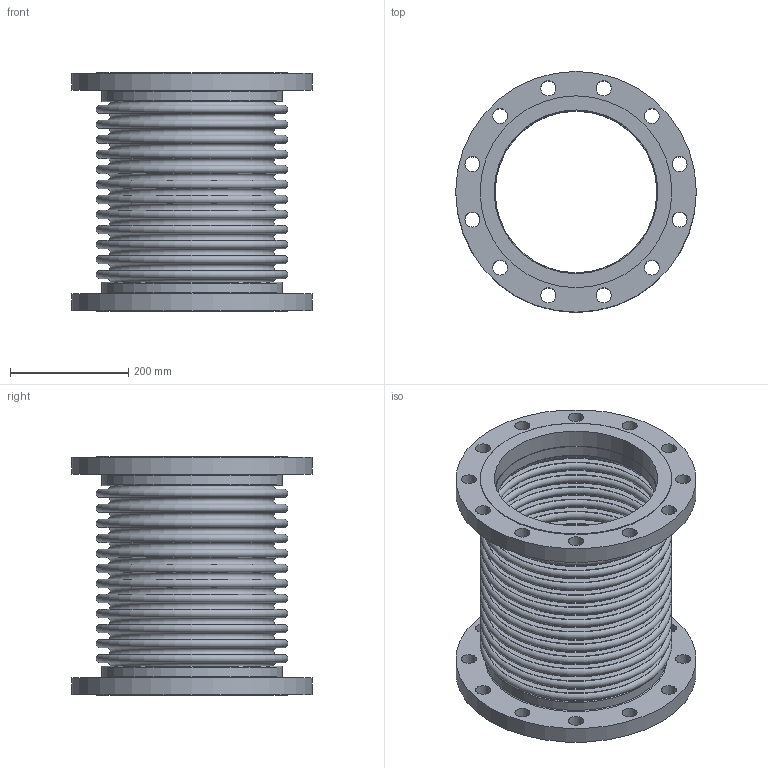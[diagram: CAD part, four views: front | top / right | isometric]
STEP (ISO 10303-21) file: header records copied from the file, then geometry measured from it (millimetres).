
FILE_DESCRIPTION(/* description */ ('EXPANSION JOINT,SINGLE, FLANGED ENDS,10 INCH NOMINAL','CAx-IF Rec.Pracs.---Representation and Presentation of Product Manufacturing Information (PMI)---4.0---2014-10-13'),/* implementation_level */ '2;1');
FILE_NAME(/* name */ 'US-10-12-150L-FLANGED ENDS.stp',/* time_stamp */ '2026-07-31T17:16:34-05:00',/* author */ ('Guadalupe'),/* organization */ (''),/* preprocessor_version */ 'ST-DEVELOPER v20.1',/* originating_system */ 'Autodesk Inventor 2026',/* authorisation */ '');
FILE_SCHEMA (('AP242_MANAGED_MODEL_BASED_3D_ENGINEERING_MIM_LF { 1 0 10303 442 2 1 4 }'));
Length unit declared in the file: inch
Products named in the file (3): 10-150L; 10-150L-02; 10-150L-01
Assembly tree (3 placements, depth 2):
  10-150L
    10-150L-02  x2
    10-150L-01
Bounding box: 406.4 x 406.4 x 403.35 mm (x, y, z)
Volume: 5093612 mm3; surface area: 1991340.7 mm2
Topology: 5 solids, 5 shells, 152 faces, 270 edges, 180 vertices
Faces by surface type: plane 62, torus 54, cylinder 36
Full cylindrical faces by diameter (mm): 25.4 x24, 273.05 x2, 275.488 x2, 276.352 x2, 304.8 x2, 323.85 x2, 406.4 x2
Entity records: 3450 total; most frequent: DIRECTION 710, CARTESIAN_POINT 513, ORIENTED_EDGE 432, AXIS2_PLACEMENT_3D 345, EDGE_CURVE 216, EDGE_LOOP 212, CIRCLE 196, VERTEX_POINT 144
